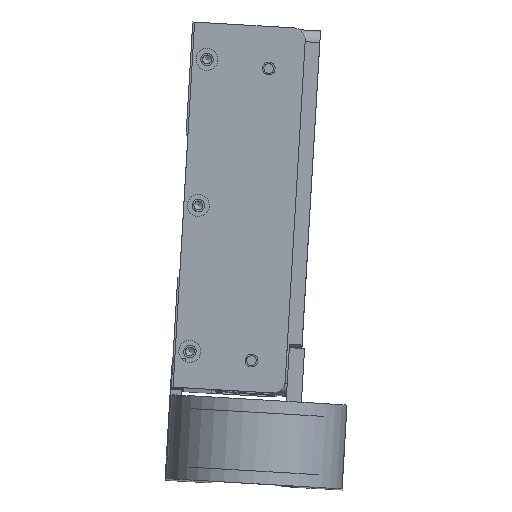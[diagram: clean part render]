
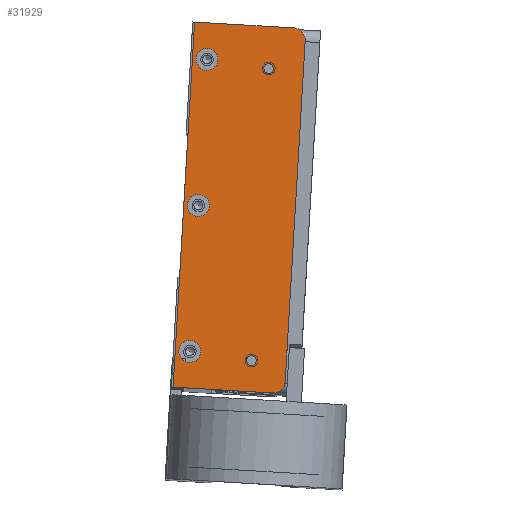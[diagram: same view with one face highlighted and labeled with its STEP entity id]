
A CAD part, top view. The second image highlights one B-rep face of the part: STEP entity #31929.
In plain terms, the highlighted planar face has unit normal (0, 0, 1) as drawn and (0, -1, 0) by its records, which use the part's own axes.
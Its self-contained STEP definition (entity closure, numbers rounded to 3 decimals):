
#951=PLANE($,#34825);
#2271=FACE_BOUND($,#6115,.T.);
#2272=FACE_BOUND($,#6116,.T.);
#2273=FACE_BOUND($,#6117,.T.);
#2274=FACE_BOUND($,#6118,.T.);
#2275=FACE_BOUND($,#6119,.T.);
#2276=FACE_BOUND($,#6120,.T.);
#6115=EDGE_LOOP($,(#25703));
#6116=EDGE_LOOP($,(#25704));
#6117=EDGE_LOOP($,(#25705));
#6118=EDGE_LOOP($,(#25706));
#6119=EDGE_LOOP($,(#25707));
#6120=EDGE_LOOP($,(#25708,#25709,#25710,#25711,#25712,#25713));
#8371=LINE($,#51117,#11032);
#8374=LINE($,#51133,#11035);
#8375=LINE($,#51135,#11036);
#8376=LINE($,#51137,#11037);
#11032=VECTOR($,#41116,93.65);
#11035=VECTOR($,#41131,27.325);
#11036=VECTOR($,#41132,100.);
#11037=VECTOR($,#41133,27.325);
#13765=CIRCLE($,#34822,3.175);
#13767=CIRCLE($,#34826,3.);
#13768=CIRCLE($,#34827,3.);
#13769=CIRCLE($,#34828,3.);
#13770=CIRCLE($,#34829,1.321);
#13771=CIRCLE($,#34830,1.321);
#13772=CIRCLE($,#34831,3.175);
#15734=VERTEX_POINT($,#51107);
#15735=VERTEX_POINT($,#51108);
#15738=VERTEX_POINT($,#51116);
#15740=VERTEX_POINT($,#51122);
#15741=VERTEX_POINT($,#51124);
#15742=VERTEX_POINT($,#51126);
#15743=VERTEX_POINT($,#51128);
#15744=VERTEX_POINT($,#51130);
#15745=VERTEX_POINT($,#51132);
#15746=VERTEX_POINT($,#51134);
#15747=VERTEX_POINT($,#51136);
#19364=EDGE_CURVE($,#15734,#15735,#13765,.T.);
#19368=EDGE_CURVE($,#15735,#15738,#8371,.T.);
#19371=EDGE_CURVE($,#15740,#15740,#13767,.T.);
#19372=EDGE_CURVE($,#15741,#15741,#13768,.T.);
#19373=EDGE_CURVE($,#15742,#15742,#13769,.T.);
#19374=EDGE_CURVE($,#15743,#15743,#13770,.T.);
#19375=EDGE_CURVE($,#15744,#15744,#13771,.T.);
#19376=EDGE_CURVE($,#15734,#15745,#8374,.T.);
#19377=EDGE_CURVE($,#15745,#15746,#8375,.T.);
#19378=EDGE_CURVE($,#15746,#15747,#8376,.T.);
#19379=EDGE_CURVE($,#15738,#15747,#13772,.T.);
#25703=ORIENTED_EDGE($,*,*,#19371,.T.);
#25704=ORIENTED_EDGE($,*,*,#19372,.T.);
#25705=ORIENTED_EDGE($,*,*,#19373,.T.);
#25706=ORIENTED_EDGE($,*,*,#19374,.T.);
#25707=ORIENTED_EDGE($,*,*,#19375,.T.);
#25708=ORIENTED_EDGE($,*,*,#19364,.F.);
#25709=ORIENTED_EDGE($,*,*,#19376,.T.);
#25710=ORIENTED_EDGE($,*,*,#19377,.T.);
#25711=ORIENTED_EDGE($,*,*,#19378,.T.);
#25712=ORIENTED_EDGE($,*,*,#19379,.F.);
#25713=ORIENTED_EDGE($,*,*,#19368,.F.);
#31929=ADVANCED_FACE($,(#2271,#2272,#2273,#2274,#2275,#2276),#951,.T.);
#34822=AXIS2_PLACEMENT_3D($,#51109,#41108,#41109);
#34825=AXIS2_PLACEMENT_3D($,#51121,#41119,#41120);
#34826=AXIS2_PLACEMENT_3D($,#51123,#41121,#41122);
#34827=AXIS2_PLACEMENT_3D($,#51125,#41123,#41124);
#34828=AXIS2_PLACEMENT_3D($,#51127,#41125,#41126);
#34829=AXIS2_PLACEMENT_3D($,#51129,#41127,#41128);
#34830=AXIS2_PLACEMENT_3D($,#51131,#41129,#41130);
#34831=AXIS2_PLACEMENT_3D($,#51138,#41134,#41135);
#41108=DIRECTION('center_axis',(0.,1.,0.));
#41109=DIRECTION('ref_axis',(0.707,0.,0.707));
#41116=DIRECTION($,(0.,0.,-1.));
#41119=DIRECTION('center_axis',(0.,-1.,0.));
#41120=DIRECTION('ref_axis',(0.,0.,-1.));
#41121=DIRECTION('center_axis',(0.,1.,0.));
#41122=DIRECTION('ref_axis',(1.,0.,0.));
#41123=DIRECTION('center_axis',(0.,1.,0.));
#41124=DIRECTION('ref_axis',(1.,0.,0.));
#41125=DIRECTION('center_axis',(0.,1.,0.));
#41126=DIRECTION('ref_axis',(1.,0.,0.));
#41127=DIRECTION('center_axis',(0.,1.,0.));
#41128=DIRECTION('ref_axis',(1.,0.,0.));
#41129=DIRECTION('center_axis',(0.,1.,0.));
#41130=DIRECTION('ref_axis',(1.,0.,0.));
#41131=DIRECTION($,(-1.,0.,0.));
#41132=DIRECTION($,(0.,0.,-1.));
#41133=DIRECTION($,(1.,0.,0.));
#41134=DIRECTION('center_axis',(0.,1.,0.));
#41135=DIRECTION('ref_axis',(0.707,0.,-0.707));
#51107=CARTESIAN_POINT('',(12.075,-2.5,50.));
#51108=CARTESIAN_POINT('',(15.25,-2.5,46.825));
#51109=CARTESIAN_POINT('Origin',(12.075,-2.5,46.825));
#51116=CARTESIAN_POINT('',(15.25,-2.5,-46.825));
#51117=CARTESIAN_POINT($,(15.25,-2.5,0.));
#51121=CARTESIAN_POINT('Origin',(15.25,-2.5,0.));
#51122=CARTESIAN_POINT('',(-8.25,-2.5,0.));
#51123=CARTESIAN_POINT('Origin',(-11.25,-2.5,0.));
#51124=CARTESIAN_POINT('',(-8.25,-2.5,40.));
#51125=CARTESIAN_POINT('Origin',(-11.25,-2.5,40.));
#51126=CARTESIAN_POINT('',(-8.25,-2.5,-40.));
#51127=CARTESIAN_POINT('Origin',(-11.25,-2.5,-40.));
#51128=CARTESIAN_POINT('',(7.071,-2.5,38.5));
#51129=CARTESIAN_POINT('Origin',(5.75,-2.5,38.5));
#51130=CARTESIAN_POINT('',(7.037,-2.5,-41.5));
#51131=CARTESIAN_POINT('Origin',(5.716,-2.5,-41.5));
#51132=CARTESIAN_POINT('',(-15.25,-2.5,50.));
#51133=CARTESIAN_POINT($,(15.25,-2.5,50.));
#51134=CARTESIAN_POINT('',(-15.25,-2.5,-50.));
#51135=CARTESIAN_POINT($,(-15.25,-2.5,0.));
#51136=CARTESIAN_POINT('',(12.075,-2.5,-50.));
#51137=CARTESIAN_POINT($,(15.25,-2.5,-50.));
#51138=CARTESIAN_POINT('Origin',(12.075,-2.5,-46.825));
